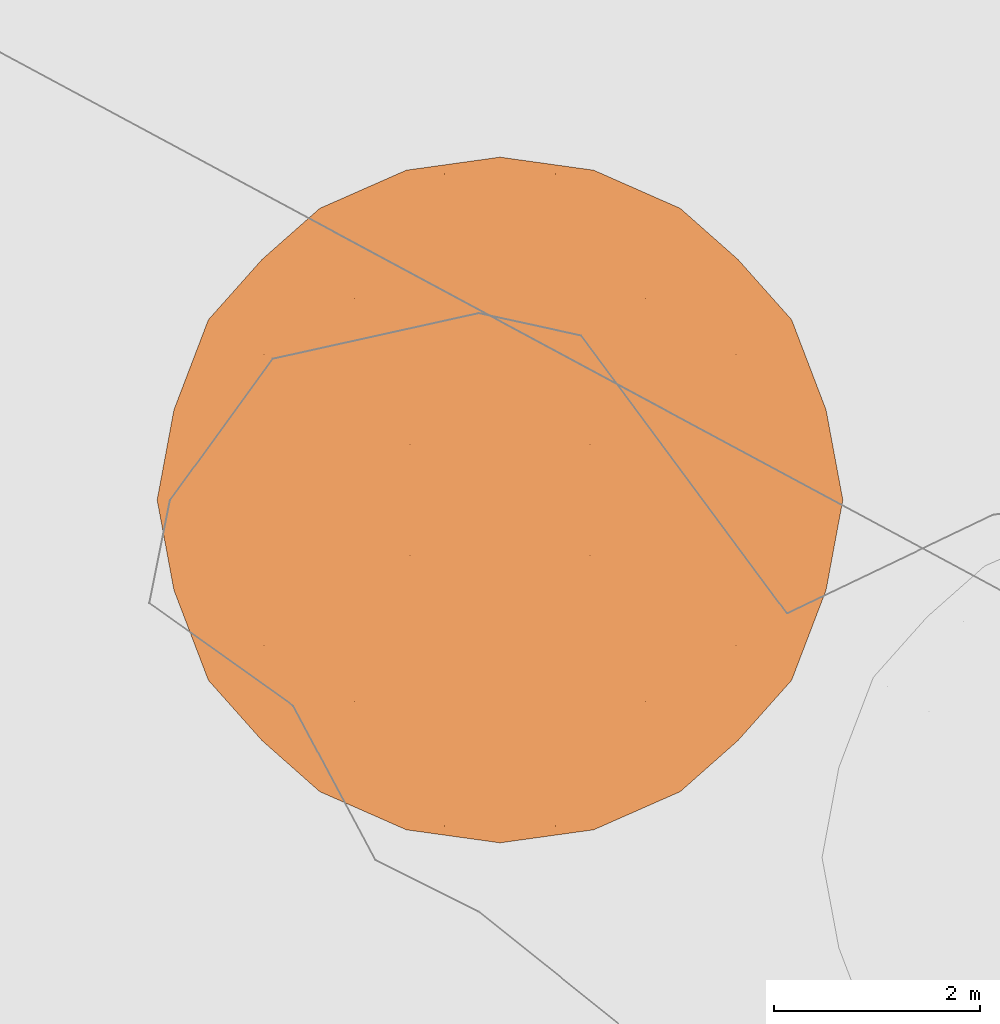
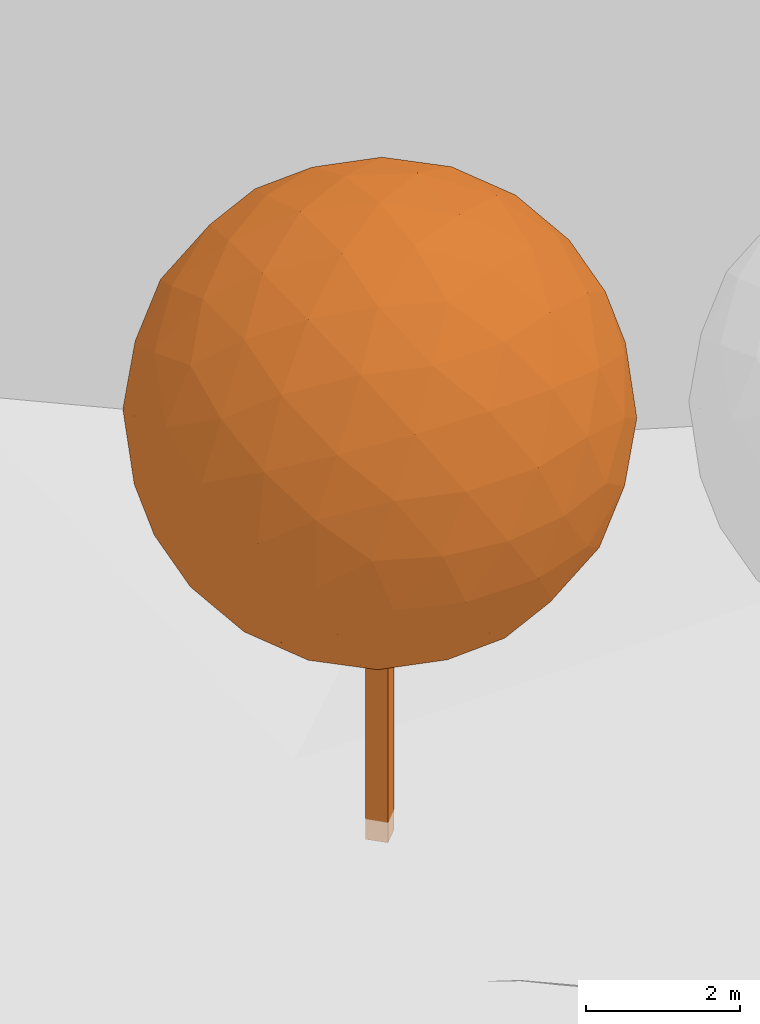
# Not in any storey, part 71 of 76: 1 proxy.
"""IFC2X3 model written with IfcOpenShell, lengths in metres."""

from ifc_helpers import new_model, si_unit, frame, origin_with_axes, place, context, subcontext, project, faceted_brep, element, save


model = new_model("IFC2X3")

# Units and contexts
model_context = context("Model", 3, precision=1e-05, world=origin_with_axes())
body_context = subcontext(model_context, "Body", "Model", "MODEL_VIEW")
ifc_project = project(units=[si_unit("AREAUNIT", "SQUARE_METRE"), si_unit("LENGTHUNIT", "METRE")], contexts=[model_context])

# Proxy
proxy_placement = place(None, frame((240.3994666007, 128.0482540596, 19.8173928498), z_axis=(0.0, 0.0, 1.0), x_axis=(1.0, 0.0, 0.0)))
element("IfcBuildingElementProxy", 1, at=proxy_placement, Name="Arbre TR2 CD66", ObjectType="NOTDEFINED", context=body_context, shape_type="Brep", body=[
    faceted_brep([(0.0, 0.2122065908, 0.0), (0.2122065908, 0.0, 0.0), (0.0, -0.2122065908, 0.0), (-0.2122065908, 0.0, 0.0), (0.0, -0.2122065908, 6.6666666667), (0.2122065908, 0.0, 6.6666666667), (0.0, 0.2122065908, 6.6666666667), (-0.2122065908, 0.0, 6.6666666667)], [[[0, 1, 2]], [[2, 3, 0]], [[4, 5, 6]], [[6, 7, 4]], [[4, 7, 2]], [[2, 7, 3]], [[7, 6, 3]], [[3, 6, 0]], [[5, 4, 1]], [[1, 4, 2]], [[6, 5, 0]], [[0, 5, 1]]]),
    faceted_brep([(-1.7524370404, 2.8355026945, 6.6666666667), (-2.3126015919, 2.3401548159, 7.2020734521), (-1.4462952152, 2.8755616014, 7.5329730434), (-2.6967233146, 1.6666666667, 7.6967233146), (-1.9592841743, 2.2939698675, 8.0844180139), (-1.0300566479, 2.6967233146, 8.3333333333), (-2.8755616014, 0.8663063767, 8.1129618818), (-2.2939698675, 1.4177513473, 8.625950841), (-2.8355026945, 0.0, 8.4191037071), (-2.3401548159, 0.5354067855, 8.9792682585), (-1.6666666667, 1.0300566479, 9.3633899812), (-1.4177513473, 1.9592841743, 8.9606365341), (-0.5354067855, 2.3126015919, 9.0068214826), (-0.8663063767, 1.4462952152, 9.5422282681), (0.0, 1.7524370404, 9.5021693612), (-0.9108884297, 3.2064611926, 6.6666666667), (-0.5415328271, 3.1701883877, 7.5428851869), (0.0, 3.3333333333, 6.6666666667), (0.0, 2.8355026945, 8.4191037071), (0.5354067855, 2.3126015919, 9.0068214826), (1.0300566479, 2.6967233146, 8.3333333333), (0.5415328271, 3.1701883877, 7.5428851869), (0.9108884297, 3.2064611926, 6.6666666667), (1.4462952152, 2.8755616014, 7.5329730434), (1.7524370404, 2.8355026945, 6.6666666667), (-1.4462952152, 2.8755616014, 5.80036029), (-0.5415328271, 3.1701883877, 5.7904481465), (-1.0300566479, 2.6967233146, 5.0), (0.5415328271, 3.1701883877, 5.7904481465), (1.4462952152, 2.8755616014, 5.80036029), (1.0300566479, 2.6967233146, 5.0), (0.0, 2.8355026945, 4.9142296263), (-0.5354067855, 2.3126015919, 4.3265118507), (0.5354067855, 2.3126015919, 4.3265118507), (0.0, 1.7524370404, 3.8311639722), (-2.3126015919, 2.3401548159, 6.1312598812), (-1.9592841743, 2.2939698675, 5.2489153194), (-2.6967233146, 1.6666666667, 5.6366100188), (-1.4177513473, 1.9592841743, 4.3726967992), (-0.8663063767, 1.4462952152, 3.7911050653), (-1.6666666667, 1.0300566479, 3.9699433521), (-2.2939698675, 1.4177513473, 4.7073824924), (-2.8755616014, 0.8663063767, 5.2203714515), (-2.3401548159, 0.5354067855, 4.3540650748), (-2.8355026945, 0.0, 4.9142296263), (-2.8355026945, 1.7524370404, 6.6666666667), (-3.1701883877, 0.8762185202, 6.1251338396), (-3.2064611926, 0.0, 5.755778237), (-3.3333333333, 0.0, 6.6666666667), (-3.1701883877, 0.8762185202, 7.2081994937), (-3.2064611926, 0.0, 7.5775550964), (2.3126015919, 2.3401548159, 7.2020734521), (1.9592841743, 2.2939698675, 8.0844180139), (2.6967233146, 1.6666666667, 7.6967233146), (1.4177513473, 1.9592841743, 8.9606365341), (0.8663063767, 1.4462952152, 9.5422282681), (1.6666666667, 1.0300566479, 9.3633899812), (2.2939698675, 1.4177513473, 8.625950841), (2.8755616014, 0.8663063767, 8.1129618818), (2.3401548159, 0.5354067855, 8.9792682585), (2.8355026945, 0.0, 8.4191037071), (0.0, 0.9108884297, 9.8731278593), (-0.8762185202, 0.5415328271, 9.8368550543), (0.0, 0.0, 10.0), (-1.7524370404, 0.0, 9.5021693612), (-2.3401548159, -0.5354067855, 8.9792682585), (-1.6666666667, -1.0300566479, 9.3633899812), (-0.8762185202, -0.5415328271, 9.8368550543), (0.0, -0.9108884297, 9.8731278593), (-0.8663063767, -1.4462952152, 9.5422282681), (0.0, -1.7524370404, 9.5021693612), (-2.8755616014, -0.8663063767, 8.1129618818), (-3.1701883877, -0.8762185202, 7.2081994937), (-2.6967233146, -1.6666666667, 7.6967233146), (-3.1701883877, -0.8762185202, 6.1251338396), (-2.8755616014, -0.8663063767, 5.2203714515), (-2.6967233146, -1.6666666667, 5.6366100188), (-2.8355026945, -1.7524370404, 6.6666666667), (-2.3126015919, -2.3401548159, 7.2020734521), (-2.3126015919, -2.3401548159, 6.1312598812), (-1.7524370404, -2.8355026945, 6.6666666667), (-2.3401548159, -0.5354067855, 4.3540650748), (-1.7524370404, 0.0, 3.8311639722), (-1.6666666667, -1.0300566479, 3.9699433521), (-0.8762185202, 0.5415328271, 3.496478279), (0.0, 0.9108884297, 3.4602054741), (0.0, 0.0, 3.3333333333), (-0.8762185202, -0.5415328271, 3.496478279), (-0.8663063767, -1.4462952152, 3.7911050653), (0.0, -0.9108884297, 3.4602054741), (0.0, -1.7524370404, 3.8311639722), (0.8663063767, 1.4462952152, 3.7911050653), (1.4177513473, 1.9592841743, 4.3726967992), (1.6666666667, 1.0300566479, 3.9699433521), (1.9592841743, 2.2939698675, 5.2489153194), (2.3126015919, 2.3401548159, 6.1312598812), (2.6967233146, 1.6666666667, 5.6366100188), (2.2939698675, 1.4177513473, 4.7073824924), (2.3401548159, 0.5354067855, 4.3540650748), (2.8755616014, 0.8663063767, 5.2203714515), (2.8355026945, 0.0, 4.9142296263), (1.7524370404, -2.8355026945, 6.6666666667), (2.3126015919, -2.3401548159, 7.2020734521), (1.4462952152, -2.8755616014, 7.5329730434), (2.6967233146, -1.6666666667, 7.6967233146), (1.9592841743, -2.2939698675, 8.0844180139), (1.0300566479, -2.6967233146, 8.3333333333), (2.8755616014, -0.8663063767, 8.1129618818), (2.2939698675, -1.4177513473, 8.625950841), (2.3401548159, -0.5354067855, 8.9792682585), (1.6666666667, -1.0300566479, 9.3633899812), (1.4177513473, -1.9592841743, 8.9606365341), (0.5354067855, -2.3126015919, 9.0068214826), (0.8663063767, -1.4462952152, 9.5422282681), (0.9108884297, -3.2064611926, 6.6666666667), (0.5415328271, -3.1701883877, 7.5428851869), (0.0, -3.3333333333, 6.6666666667), (0.0, -2.8355026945, 8.4191037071), (-0.5354067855, -2.3126015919, 9.0068214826), (-1.0300566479, -2.6967233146, 8.3333333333), (-0.5415328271, -3.1701883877, 7.5428851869), (-0.9108884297, -3.2064611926, 6.6666666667), (-1.4462952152, -2.8755616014, 7.5329730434), (1.4462952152, -2.8755616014, 5.80036029), (0.5415328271, -3.1701883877, 5.7904481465), (1.0300566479, -2.6967233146, 5.0), (-0.5415328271, -3.1701883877, 5.7904481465), (-1.4462952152, -2.8755616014, 5.80036029), (-1.0300566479, -2.6967233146, 5.0), (0.0, -2.8355026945, 4.9142296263), (0.5354067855, -2.3126015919, 4.3265118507), (-0.5354067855, -2.3126015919, 4.3265118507), (2.3126015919, -2.3401548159, 6.1312598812), (1.9592841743, -2.2939698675, 5.2489153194), (2.6967233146, -1.6666666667, 5.6366100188), (1.4177513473, -1.9592841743, 4.3726967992), (0.8663063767, -1.4462952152, 3.7911050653), (1.6666666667, -1.0300566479, 3.9699433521), (2.2939698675, -1.4177513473, 4.7073824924), (2.8755616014, -0.8663063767, 5.2203714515), (2.3401548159, -0.5354067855, 4.3540650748), (2.8355026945, -1.7524370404, 6.6666666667), (3.1701883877, -0.8762185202, 6.1251338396), (3.2064611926, 0.0, 5.755778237), (3.3333333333, 0.0, 6.6666666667), (3.1701883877, -0.8762185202, 7.2081994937), (3.2064611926, 0.0, 7.5775550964), (0.8762185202, -0.5415328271, 9.8368550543), (1.7524370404, 0.0, 9.5021693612), (0.8762185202, 0.5415328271, 9.8368550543), (-1.9592841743, -2.2939698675, 8.0844180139), (-1.4177513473, -1.9592841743, 8.9606365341), (-2.2939698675, -1.4177513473, 8.625950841), (-1.4177513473, -1.9592841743, 4.3726967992), (-1.9592841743, -2.2939698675, 5.2489153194), (-2.2939698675, -1.4177513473, 4.7073824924), (1.7524370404, 0.0, 3.8311639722), (0.8762185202, -0.5415328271, 3.496478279), (0.8762185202, 0.5415328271, 3.496478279), (3.1701883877, 0.8762185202, 7.2081994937), (3.1701883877, 0.8762185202, 6.1251338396), (2.8355026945, 1.7524370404, 6.6666666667)], [[[0, 1, 2]], [[1, 3, 4]], [[2, 4, 5]], [[1, 4, 2]], [[3, 6, 7]], [[6, 8, 9]], [[7, 9, 10]], [[6, 9, 7]], [[5, 11, 12]], [[11, 10, 13]], [[12, 13, 14]], [[11, 13, 12]], [[3, 7, 4]], [[7, 10, 11]], [[4, 11, 5]], [[7, 11, 4]], [[0, 2, 15]], [[2, 5, 16]], [[15, 16, 17]], [[2, 16, 15]], [[5, 12, 18]], [[12, 14, 19]], [[18, 19, 20]], [[12, 19, 18]], [[17, 21, 22]], [[21, 20, 23]], [[22, 23, 24]], [[21, 23, 22]], [[5, 18, 16]], [[18, 20, 21]], [[16, 21, 17]], [[18, 21, 16]], [[0, 15, 25]], [[15, 17, 26]], [[25, 26, 27]], [[15, 26, 25]], [[17, 22, 28]], [[22, 24, 29]], [[28, 29, 30]], [[22, 29, 28]], [[27, 31, 32]], [[31, 30, 33]], [[32, 33, 34]], [[31, 33, 32]], [[17, 28, 26]], [[28, 30, 31]], [[26, 31, 27]], [[28, 31, 26]], [[0, 25, 35]], [[25, 27, 36]], [[35, 36, 37]], [[25, 36, 35]], [[27, 32, 38]], [[32, 34, 39]], [[38, 39, 40]], [[32, 39, 38]], [[37, 41, 42]], [[41, 40, 43]], [[42, 43, 44]], [[41, 43, 42]], [[27, 38, 36]], [[38, 40, 41]], [[36, 41, 37]], [[38, 41, 36]], [[0, 35, 1]], [[35, 37, 45]], [[1, 45, 3]], [[35, 45, 1]], [[37, 42, 46]], [[42, 44, 47]], [[46, 47, 48]], [[42, 47, 46]], [[3, 49, 6]], [[49, 48, 50]], [[6, 50, 8]], [[49, 50, 6]], [[37, 46, 45]], [[46, 48, 49]], [[45, 49, 3]], [[46, 49, 45]], [[24, 23, 51]], [[23, 20, 52]], [[51, 52, 53]], [[23, 52, 51]], [[20, 19, 54]], [[19, 14, 55]], [[54, 55, 56]], [[19, 55, 54]], [[53, 57, 58]], [[57, 56, 59]], [[58, 59, 60]], [[57, 59, 58]], [[20, 54, 52]], [[54, 56, 57]], [[52, 57, 53]], [[54, 57, 52]], [[14, 13, 61]], [[13, 10, 62]], [[61, 62, 63]], [[13, 62, 61]], [[10, 9, 64]], [[9, 8, 65]], [[64, 65, 66]], [[9, 65, 64]], [[63, 67, 68]], [[67, 66, 69]], [[68, 69, 70]], [[67, 69, 68]], [[10, 64, 62]], [[64, 66, 67]], [[62, 67, 63]], [[64, 67, 62]], [[8, 50, 71]], [[50, 48, 72]], [[71, 72, 73]], [[50, 72, 71]], [[48, 47, 74]], [[47, 44, 75]], [[74, 75, 76]], [[47, 75, 74]], [[73, 77, 78]], [[77, 76, 79]], [[78, 79, 80]], [[77, 79, 78]], [[48, 74, 72]], [[74, 76, 77]], [[72, 77, 73]], [[74, 77, 72]], [[44, 43, 81]], [[43, 40, 82]], [[81, 82, 83]], [[43, 82, 81]], [[40, 39, 84]], [[39, 34, 85]], [[84, 85, 86]], [[39, 85, 84]], [[83, 87, 88]], [[87, 86, 89]], [[88, 89, 90]], [[87, 89, 88]], [[40, 84, 82]], [[84, 86, 87]], [[82, 87, 83]], [[84, 87, 82]], [[34, 33, 91]], [[33, 30, 92]], [[91, 92, 93]], [[33, 92, 91]], [[30, 29, 94]], [[29, 24, 95]], [[94, 95, 96]], [[29, 95, 94]], [[93, 97, 98]], [[97, 96, 99]], [[98, 99, 100]], [[97, 99, 98]], [[30, 94, 92]], [[94, 96, 97]], [[92, 97, 93]], [[94, 97, 92]], [[101, 102, 103]], [[102, 104, 105]], [[103, 105, 106]], [[102, 105, 103]], [[104, 107, 108]], [[107, 60, 109]], [[108, 109, 110]], [[107, 109, 108]], [[106, 111, 112]], [[111, 110, 113]], [[112, 113, 70]], [[111, 113, 112]], [[104, 108, 105]], [[108, 110, 111]], [[105, 111, 106]], [[108, 111, 105]], [[101, 103, 114]], [[103, 106, 115]], [[114, 115, 116]], [[103, 115, 114]], [[106, 112, 117]], [[112, 70, 118]], [[117, 118, 119]], [[112, 118, 117]], [[116, 120, 121]], [[120, 119, 122]], [[121, 122, 80]], [[120, 122, 121]], [[106, 117, 115]], [[117, 119, 120]], [[115, 120, 116]], [[117, 120, 115]], [[101, 114, 123]], [[114, 116, 124]], [[123, 124, 125]], [[114, 124, 123]], [[116, 121, 126]], [[121, 80, 127]], [[126, 127, 128]], [[121, 127, 126]], [[125, 129, 130]], [[129, 128, 131]], [[130, 131, 90]], [[129, 131, 130]], [[116, 126, 124]], [[126, 128, 129]], [[124, 129, 125]], [[126, 129, 124]], [[101, 123, 132]], [[123, 125, 133]], [[132, 133, 134]], [[123, 133, 132]], [[125, 130, 135]], [[130, 90, 136]], [[135, 136, 137]], [[130, 136, 135]], [[134, 138, 139]], [[138, 137, 140]], [[139, 140, 100]], [[138, 140, 139]], [[125, 135, 133]], [[135, 137, 138]], [[133, 138, 134]], [[135, 138, 133]], [[101, 132, 102]], [[132, 134, 141]], [[102, 141, 104]], [[132, 141, 102]], [[134, 139, 142]], [[139, 100, 143]], [[142, 143, 144]], [[139, 143, 142]], [[104, 145, 107]], [[145, 144, 146]], [[107, 146, 60]], [[145, 146, 107]], [[134, 142, 141]], [[142, 144, 145]], [[141, 145, 104]], [[142, 145, 141]], [[70, 113, 68]], [[113, 110, 147]], [[68, 147, 63]], [[113, 147, 68]], [[110, 109, 148]], [[109, 60, 59]], [[148, 59, 56]], [[109, 59, 148]], [[63, 149, 61]], [[149, 56, 55]], [[61, 55, 14]], [[149, 55, 61]], [[110, 148, 147]], [[148, 56, 149]], [[147, 149, 63]], [[148, 149, 147]], [[80, 122, 78]], [[122, 119, 150]], [[78, 150, 73]], [[122, 150, 78]], [[119, 118, 151]], [[118, 70, 69]], [[151, 69, 66]], [[118, 69, 151]], [[73, 152, 71]], [[152, 66, 65]], [[71, 65, 8]], [[152, 65, 71]], [[119, 151, 150]], [[151, 66, 152]], [[150, 152, 73]], [[151, 152, 150]], [[90, 131, 88]], [[131, 128, 153]], [[88, 153, 83]], [[131, 153, 88]], [[128, 127, 154]], [[127, 80, 79]], [[154, 79, 76]], [[127, 79, 154]], [[83, 155, 81]], [[155, 76, 75]], [[81, 75, 44]], [[155, 75, 81]], [[128, 154, 153]], [[154, 76, 155]], [[153, 155, 83]], [[154, 155, 153]], [[100, 140, 98]], [[140, 137, 156]], [[98, 156, 93]], [[140, 156, 98]], [[137, 136, 157]], [[136, 90, 89]], [[157, 89, 86]], [[136, 89, 157]], [[93, 158, 91]], [[158, 86, 85]], [[91, 85, 34]], [[158, 85, 91]], [[137, 157, 156]], [[157, 86, 158]], [[156, 158, 93]], [[157, 158, 156]], [[60, 146, 58]], [[146, 144, 159]], [[58, 159, 53]], [[146, 159, 58]], [[144, 143, 160]], [[143, 100, 99]], [[160, 99, 96]], [[143, 99, 160]], [[53, 161, 51]], [[161, 96, 95]], [[51, 95, 24]], [[161, 95, 51]], [[144, 160, 159]], [[160, 96, 161]], [[159, 161, 53]], [[160, 161, 159]]]),
])

save(model, "model.ifc")
